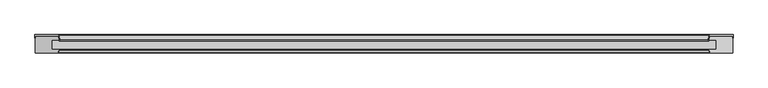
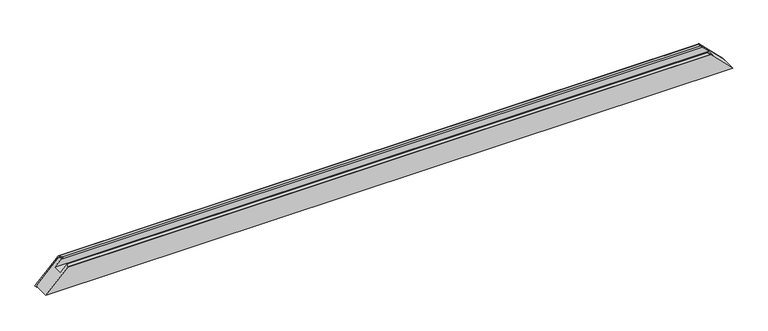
"""IFC4 building model written with IfcOpenShell, lengths in millimetres: proxy geometry, Weiku - Montante - Caixilho fixo : Weiku - Montante - Caixilho fixo."""

from ifc_helpers import new_model, si_unit, frame, origin, place, context, project, spatial, polyline, ellipse_curve, source, transform, mapped, element, save
from ifc_brep_helpers import plane_surface, cylinder_surface, revolved_surface, advanced_brep


def generic_models_3f90564d(model_context):
    return source(origin(), model_context, "Body", "AdvancedBrep", [
        advanced_brep(
        [(972.0, 41.9137905, -1.0), (972.0, 51.0, -1.0), (906.5643998, 51.0, 64.4356002), (905.598474, 50.258819, 65.401526), (902.1863753, 37.5246933, 68.8136247), (904.8909676, 34.0, 66.1090324), (904.8909676, 36.0, 66.1090324), (904.118227, 37.0070552, 66.881773), (906.2000319, 44.7764571, 64.7999681), (909.0978094, 47.0, 61.9021906), (971.0, 47.0, 0.0), (971.0, 41.9137905, 0.0), (-972.0, 51.0, -1.0), (-972.0, 41.9137905, -1.0), (-971.0, 41.9137905, 0.0), (-971.0, 47.0, 0.0), (-909.0978094, 47.0, 61.9021906), (-906.2000319, 44.7764571, 64.7999681), (-904.118227, 37.0070552, 66.881773), (-904.8909676, 36.0, 66.1090324), (-904.8909676, 34.0, 66.1090324), (-902.1863753, 37.5246933, 68.8136247), (-905.598474, 50.258819, 65.401526), (-906.5643998, 51.0, 64.4356002)],
        [
            (0, 1),
            (1, 2),
            (2, 3, ellipse_curve(frame((906.5643998, 50.0, 64.4356002), z_axis=(0.7071067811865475, 0.0, 0.7071067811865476), x_axis=(-0.7071067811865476, 0.0, 0.7071067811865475)), 1.4142136, 1.0)),
            (3, 4),
            (4, 5, ellipse_curve(frame((904.8909676, 36.8, 66.1090324), z_axis=(0.7071067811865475, 0.0, 0.7071067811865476), x_axis=(-0.7071067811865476, 0.0, 0.7071067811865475)), 3.959798, 2.8)),
            (5, 6),
            (6, 7, ellipse_curve(frame((904.8909676, 36.8, 66.1090324), z_axis=(-0.7071067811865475, 0.0, -0.7071067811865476), x_axis=(0.7071067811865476, 0.0, -0.7071067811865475)), 1.1313708, 0.8)),
            (7, 8),
            (8, 9, ellipse_curve(frame((909.0978094, 44.0, 61.9021906), z_axis=(-0.7071067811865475, 0.0, -0.7071067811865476), x_axis=(0.7071067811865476, 0.0, -0.7071067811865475)), 4.2426407, 3.0)),
            (9, 10),
            (10, 11),
            (11, 0),
            (12, 13),
            (13, 14),
            (14, 15),
            (15, 16),
            (16, 17, ellipse_curve(frame((-909.0978094, 44.0, 61.9021906), z_axis=(0.7071067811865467, 0.0, -0.7071067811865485), x_axis=(0.7071067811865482, 0.0, 0.7071067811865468)), 4.2426407, 3.0)),
            (17, 18),
            (18, 19, ellipse_curve(frame((-904.8909676, 36.8, 66.1090324), z_axis=(0.7071067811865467, 0.0, -0.7071067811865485), x_axis=(0.7071067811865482, 0.0, 0.7071067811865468)), 1.1313708, 0.8)),
            (19, 20),
            (20, 21, ellipse_curve(frame((-904.8909676, 36.8, 66.1090324), z_axis=(-0.7071067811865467, 0.0, 0.7071067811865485), x_axis=(-0.7071067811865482, 0.0, -0.7071067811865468)), 3.959798, 2.8)),
            (21, 22),
            (22, 23, ellipse_curve(frame((-906.5643998, 50.0, 64.4356002), z_axis=(-0.7071067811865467, 0.0, 0.7071067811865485), x_axis=(-0.7071067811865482, 0.0, -0.7071067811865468)), 1.4142136, 1.0)),
            (23, 12),
            (0, 13),
            (12, 1),
            (11, 14),
            (5, 20),
            (19, 6),
            (3, 22),
            (21, 4),
            (2, 23),
            (10, 15),
            (9, 16),
            (8, 17),
            (7, 18),
        ],
        [
            plane_surface(frame((901.0, -15.0, 70.0), z_axis=(0.7071067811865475, 0.0, 0.7071067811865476), x_axis=(0.0, 1.0, 0.0))),
            plane_surface(frame((-1041.0, -15.0, -70.0), z_axis=(-0.7071067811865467, 0.0, 0.7071067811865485), x_axis=(0.0, 1.0, 0.0))),
            plane_surface(frame((-973.8284271, 51.0, -1.0), z_axis=(0.0, 0.0, -1.0), x_axis=(1.0, 0.0, 0.0))),
            plane_surface(frame((-973.8284271, 41.9137905, -1.0), z_axis=(0.0, -1.0, 0.0), x_axis=(1.0, 0.0, 0.0))),
            plane_surface(frame((-973.8284271, 36.0, 66.1090324), z_axis=(0.0, 0.0, -1.0), x_axis=(1.0, 0.0, 0.0))),
            plane_surface(frame((-973.8284271, 37.5246933, 68.8136247), z_axis=(0.0, 0.25881904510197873, 0.9659258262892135), x_axis=(1.0, 0.0, 0.0))),
            cylinder_surface(frame((-973.8284271, 50.0, 64.4356002), z_axis=(-1.0, 0.0, 0.0), x_axis=(0.0, -1.0, 0.0)), 1.0),
            plane_surface(frame((-973.8284271, 51.0, 64.4356002), z_axis=(0.0, 1.0, 0.0), x_axis=(1.0, 0.0, 0.0))),
            plane_surface(frame((-973.8284271, 41.9137905, 0.0), z_axis=(0.0, 0.0, 1.0), x_axis=(1.0, 0.0, 0.0))),
            plane_surface(frame((-973.8284271, 47.0, 0.0), z_axis=(0.0, -1.0, 0.0), x_axis=(1.0, 0.0, 0.0))),
            revolved_surface(polyline([(912.0978094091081, 47.0, 61.9021906), (-912.097809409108, 47.0, 61.9021906)]), (-973.8284271, 44.0, 61.9021906), (1.0, 0.0, 0.0)),
            plane_surface(frame((-973.8284271, 44.7764571, 64.7999681), z_axis=(0.0, -0.2588190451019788, -0.9659258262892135), x_axis=(1.0, 0.0, 0.0))),
            revolved_surface(polyline([(905.6909675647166, 37.599999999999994, 66.1090324), (-905.6909675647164, 37.599999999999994, 66.1090324)]), (-973.8284271, 36.8, 66.1090324), (1.0, 0.0, 0.0)),
            cylinder_surface(frame((-973.8284271, 36.8, 66.1090324), z_axis=(-1.0, 0.0, 0.0), x_axis=(0.0, 1.0, 0.0)), 2.8),
        ],
        [
            (0, [[1, 2, 3, 4, 5, 6, 7, 8, 9, 10, 11, 12]]),
            (1, [[13, 14, 15, 16, 17, 18, 19, 20, 21, 22, 23, 24]]),
            (2, [[-1, 25, -13, 26]]),
            (3, [[-12, 27, -14, -25]]),
            (4, [[-6, 28, -20, 29]]),
            (5, [[-4, 30, -22, 31]]),
            (6, [[-3, 32, -23, -30]]),
            (7, [[-2, -26, -24, -32]]),
            (8, [[-11, 33, -15, -27]]),
            (9, [[-10, 34, -16, -33]]),
            (10, [[-9, 35, -17, -34]]),
            (11, [[-8, 36, -18, -35]]),
            (12, [[-7, -29, -19, -36]]),
            (13, [[-5, -31, -21, -28]]),
        ],
    ),
        advanced_brep(
        [(-904.118227, 37.0070552, 66.881773), (-906.2000319, 44.7764571, 64.7999681), (-909.0978094, 47.0, 61.9021906), (-971.0, 47.0, 0.0), (-971.0, 0.0, 0.0), (-908.5773503, 0.0, 62.4226497), (-907.7113249, 0.5, 63.2886751), (-904.2679492, 6.4641016, 66.7320508), (-904.0, 7.4641016, 67.0), (-904.0, 8.8, 67.0), (-904.7, 9.5, 66.3), (-925.0, 9.5, 46.0), (-925.0, 36.0, 46.0), (-904.8909676, 36.0, 66.1090324), (906.2000319, 44.7764571, 64.7999681), (904.118227, 37.0070552, 66.881773), (904.8909676, 36.0, 66.1090324), (925.0, 36.0, 46.0), (925.0, 9.5, 46.0), (904.7, 9.5, 66.3), (904.0, 8.8, 67.0), (904.0, 7.4641016, 67.0), (904.2679492, 6.4641016, 66.7320508), (907.7113249, 0.5, 63.2886751), (908.5773503, 0.0, 62.4226497), (971.0, 0.0, 0.0), (971.0, 47.0, 0.0), (909.0978094, 47.0, 61.9021906)],
        [
            (0, 1),
            (1, 2, ellipse_curve(frame((-909.0978094, 44.0, 61.9021906), z_axis=(-0.7071067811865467, 0.0, 0.7071067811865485), x_axis=(-0.7071067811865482, 0.0, -0.7071067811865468)), 4.2426407, 3.0)),
            (2, 3),
            (3, 4),
            (4, 5),
            (5, 6, ellipse_curve(frame((-908.5773503, 1.0, 62.4226497), z_axis=(-0.7071067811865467, 0.0, 0.7071067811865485), x_axis=(-0.7071067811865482, 0.0, -0.7071067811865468)), 1.4142136, 1.0)),
            (6, 7),
            (7, 8, ellipse_curve(frame((-906.0, 7.4641016, 65.0), z_axis=(-0.7071067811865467, 0.0, 0.7071067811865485), x_axis=(-0.7071067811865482, 0.0, -0.7071067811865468)), 2.8284271, 2.0)),
            (8, 9),
            (9, 10, ellipse_curve(frame((-904.7, 8.8, 66.3), z_axis=(-0.7071067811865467, 0.0, 0.7071067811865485), x_axis=(-0.7071067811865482, 0.0, -0.7071067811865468)), 0.9899495, 0.7)),
            (10, 11),
            (11, 12),
            (12, 13),
            (13, 0, ellipse_curve(frame((-904.8909676, 36.8, 66.1090324), z_axis=(-0.7071067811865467, 0.0, 0.7071067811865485), x_axis=(-0.7071067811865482, 0.0, -0.7071067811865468)), 1.1313708, 0.8)),
            (14, 15),
            (15, 16, ellipse_curve(frame((904.8909676, 36.8, 66.1090324), z_axis=(0.7071067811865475, 0.0, 0.7071067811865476), x_axis=(-0.7071067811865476, 0.0, 0.7071067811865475)), 1.1313708, 0.8)),
            (16, 17),
            (17, 18),
            (18, 19),
            (19, 20, ellipse_curve(frame((904.7, 8.8, 66.3), z_axis=(0.7071067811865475, 0.0, 0.7071067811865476), x_axis=(-0.7071067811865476, 0.0, 0.7071067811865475)), 0.9899495, 0.7)),
            (20, 21),
            (21, 22, ellipse_curve(frame((906.0, 7.4641016, 65.0), z_axis=(0.7071067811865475, 0.0, 0.7071067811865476), x_axis=(-0.7071067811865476, 0.0, 0.7071067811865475)), 2.8284271, 2.0)),
            (22, 23),
            (23, 24, ellipse_curve(frame((908.5773503, 1.0, 62.4226497), z_axis=(0.7071067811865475, 0.0, 0.7071067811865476), x_axis=(-0.7071067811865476, 0.0, 0.7071067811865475)), 1.4142136, 1.0)),
            (24, 25),
            (25, 26),
            (26, 27),
            (27, 14, ellipse_curve(frame((909.0978094, 44.0, 61.9021906), z_axis=(0.7071067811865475, 0.0, 0.7071067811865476), x_axis=(-0.7071067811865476, 0.0, 0.7071067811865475)), 4.2426407, 3.0)),
            (0, 15),
            (14, 1),
            (27, 2),
            (26, 3),
            (25, 4),
            (24, 5),
            (11, 18),
            (17, 12),
            (16, 13),
            (23, 6),
            (22, 7),
            (21, 8),
            (20, 9),
            (19, 10),
        ],
        [
            plane_surface(frame((-1041.0, -15.0, -70.0), z_axis=(-0.7071067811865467, 0.0, 0.7071067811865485), x_axis=(0.0, 1.0, 0.0))),
            plane_surface(frame((901.0, -15.0, 70.0), z_axis=(0.7071067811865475, 0.0, 0.7071067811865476), x_axis=(0.0, 1.0, 0.0))),
            plane_surface(frame((-971.0, 37.0070552, 66.881773), z_axis=(0.0, 0.2588190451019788, 0.9659258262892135), x_axis=(1.0, 0.0, 0.0))),
            cylinder_surface(frame((-971.0, 44.0, 61.9021906), z_axis=(-1.0, 0.0, 0.0), x_axis=(0.0, 1.0, 0.0)), 3.0),
            plane_surface(frame((-971.0, 47.0, 61.9021906), z_axis=(0.0, 1.0, 0.0), x_axis=(1.0, 0.0, 0.0))),
            plane_surface(frame((-971.0, 47.0, 0.0), z_axis=(0.0, 0.0, -1.0), x_axis=(1.0, 0.0, 0.0))),
            plane_surface(frame((-971.0, 0.0, 0.0), z_axis=(0.0, -1.0, 0.0), x_axis=(1.0, 0.0, 0.0))),
            plane_surface(frame((-971.0, 9.5, 46.0), z_axis=(0.0, 0.0, 1.0), x_axis=(1.0, 0.0, 0.0))),
            plane_surface(frame((-971.0, 36.0, 46.0), z_axis=(0.0, -1.0, 0.0), x_axis=(1.0, 0.0, 0.0))),
            cylinder_surface(frame((-971.0, 36.8, 66.1090324), z_axis=(-1.0, 0.0, 0.0), x_axis=(0.0, 1.0, 0.0)), 0.8),
            cylinder_surface(frame((-971.0, 1.0, 62.4226497), z_axis=(-1.0, 0.0, 0.0), x_axis=(0.0, 1.0, 0.0)), 1.0),
            plane_surface(frame((-971.0, 0.5, 63.2886751), z_axis=(0.0, -0.49999999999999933, 0.866025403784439), x_axis=(1.0, 0.0, 0.0))),
            cylinder_surface(frame((-971.0, 7.4641016, 65.0), z_axis=(-1.0, 0.0, 0.0), x_axis=(0.0, 1.0, 0.0)), 2.0),
            plane_surface(frame((-971.0, 7.4641016, 67.0), z_axis=(0.0, 0.0, 1.0), x_axis=(1.0, 0.0, 0.0))),
            cylinder_surface(frame((-971.0, 8.8, 66.3), z_axis=(-1.0, 0.0, 0.0), x_axis=(0.0, 1.0, 0.0)), 0.7),
            plane_surface(frame((-971.0, 9.5, 66.3), z_axis=(0.0, 1.0, 0.0), x_axis=(1.0, 0.0, 0.0))),
        ],
        [
            (0, [[1, 2, 3, 4, 5, 6, 7, 8, 9, 10, 11, 12, 13, 14]]),
            (1, [[15, 16, 17, 18, 19, 20, 21, 22, 23, 24, 25, 26, 27, 28]]),
            (2, [[-1, 29, -15, 30]]),
            (3, [[-2, -30, -28, 31]]),
            (4, [[32, -3, -31, -27]]),
            (5, [[-32, -26, 33, -4]]),
            (6, [[-33, -25, 34, -5]]),
            (7, [[-12, 35, -18, 36]]),
            (8, [[-13, -36, -17, 37]]),
            (9, [[-14, -37, -16, -29]]),
            (10, [[-6, -34, -24, 38]]),
            (11, [[-7, -38, -23, 39]]),
            (12, [[-8, -39, -22, 40]]),
            (13, [[-9, -40, -21, 41]]),
            (14, [[-10, -41, -20, 42]]),
            (15, [[-11, -42, -19, -35]]),
        ],
    ),
    ])


if __name__ == "__main__":
    model = new_model("IFC4")
    model_context = context("Model", 3, world=origin())
    ifc_project = project(units=[si_unit("LENGTHUNIT", "METRE", prefix="MILLI")], contexts=[model_context])
    site = spatial("IfcSite", under=ifc_project)
    building = spatial("IfcBuilding", under=site)
    placement = place(None, origin())
    generic_models_shape = generic_models_3f90564d(model_context)
    element("IfcBuildingElementProxy", 1, Name="Weiku - Montante - Caixilho fixo : Weiku - Montante - Caixilho fixo", ObjectType="Weiku - Montante - Caixilho fixo : Weiku - Montante - Caixilho fixo", at=placement, inside=building, context=model_context, shape_type="MappedRepresentation", body=[
        mapped(generic_models_shape, transform((0.0, 0.0, 0.0), x_axis=(1.0, 0.0, 0.0), y_axis=(0.0, 1.0, 0.0), z_axis=(0.0, 0.0, 1.0))),
    ])
    save(model, "model.ifc")
